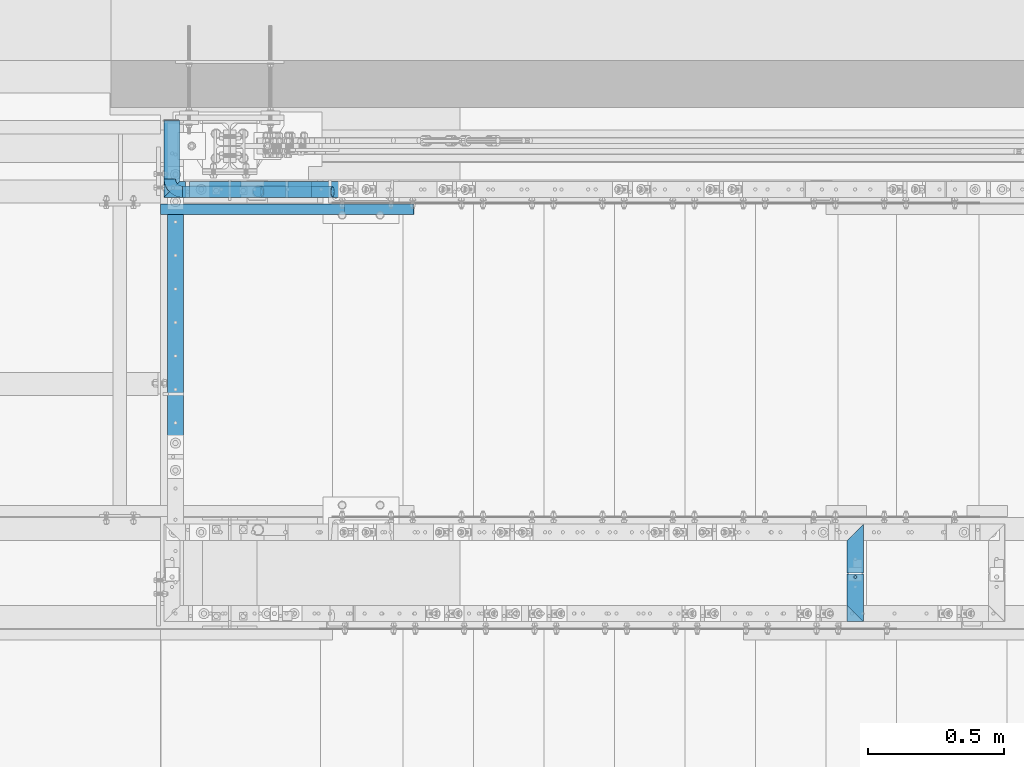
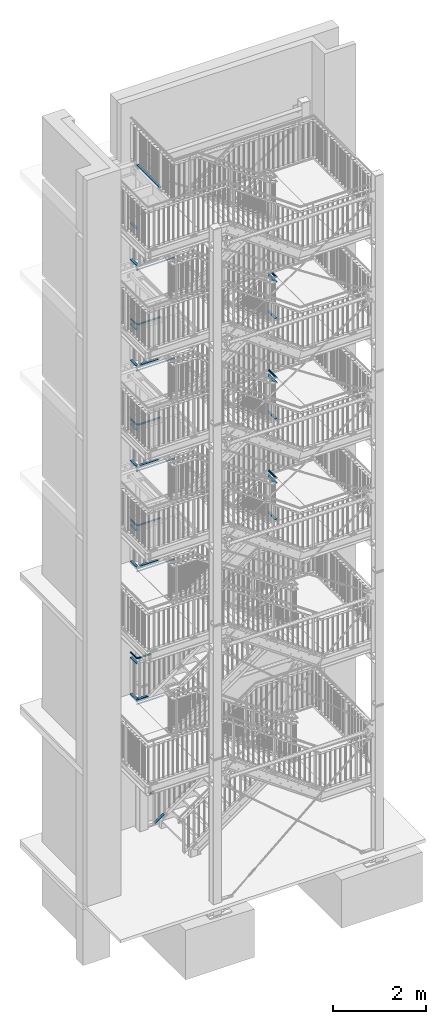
# One storey, part 136 of 825: 51 beams, 1 member, 9 openings.
"""IFC2X3 building model written with IfcOpenShell, lengths in millimetres."""

from ifc_helpers import new_model, entity, si_unit, converted_unit, frame, frame_2d, origin, origin_with_axes, origin_2d, place, context, project, spatial, polyline, rectangle, circle, hollow_circle, l_section, outline, extrude, clip, halfspace, material, element, save


model = new_model("IFC2X3")

# Units and contexts
model_context = context("Model", 3, precision=1e-09, world=origin_with_axes())
ifc_project = project(units=[si_unit("LENGTHUNIT", "METRE", prefix="MILLI"), si_unit("AREAUNIT", "SQUARE_METRE"), si_unit("VOLUMEUNIT", "CUBIC_METRE"), converted_unit("PLANEANGLEUNIT", "DEGREE", entity("IfcPlaneAngleMeasure", 0.01745329), si_unit("PLANEANGLEUNIT", "RADIAN"), dimensions=[0, 0, 0, 0, 0, 0, 0])], contexts=[model_context])

# Site, building, storey
site_placement = place(None, origin_with_axes())
site = spatial("IfcSite", under=ifc_project, at=site_placement, Name="Cnopf'sche Kinderklinik", CompositionType="ELEMENT")
building_placement = place(site_placement, origin_with_axes())
building = spatial("IfcBuilding", under=site, at=building_placement, Name="Struktur 1", CompositionType="ELEMENT")
storey_placement = place(building_placement, origin_with_axes())
storey = spatial("IfcBuildingStorey", under=building, at=storey_placement, Name="Default Storey", CompositionType="ELEMENT", Elevation=0.0)

# Beams
ifc_material = material(Name="S235JR")
beam_1_placement = place(None, frame((4601.713402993, 7292.536971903, 9940.8), z_axis=(-1.0, 0.0, 0.0), x_axis=(0.0, 0.0, -1.0)))
element("IfcBeam", 1, at=beam_1_placement, inside=storey, material=ifc_material, Name="BottomLanding#3", ObjectType="BottomLanding#3", context=model_context, shape_type="SweptSolid", body=[
    extrude(l_section(Depth=40.0, Width=40.0, Thickness=4.0, FilletRadius=6.0, EdgeRadius=3.0, at=frame_2d((8.8, 8.8))), origin(), (0.0, 0.0, -1.0), 934.257526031),
])
beam_2_placement = place(None, frame((4601.713402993, 7292.536971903, 7308.8), z_axis=(-1.0, 0.0, 0.0), x_axis=(0.0, 0.0, -1.0)))
element("IfcBeam", 2, at=beam_2_placement, inside=storey, material=ifc_material, Name="BottomLanding#3", ObjectType="BottomLanding#3", context=model_context, shape_type="SweptSolid", body=[
    extrude(l_section(Depth=40.0, Width=40.0, Thickness=4.0, FilletRadius=6.0, EdgeRadius=3.0, at=frame_2d((8.8, 8.8))), origin(), (0.0, 0.0, -1.0), 933.956009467),
])
beam_3_placement = place(None, frame((4601.713402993, 7292.536971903, 12567.8), z_axis=(-1.0, 0.0, 0.0), x_axis=(0.0, 0.0, -1.0)))
element("IfcBeam", 3, at=beam_3_placement, inside=storey, material=ifc_material, Name="BottomLanding#3", ObjectType="BottomLanding#3", context=model_context, shape_type="SweptSolid", body=[
    extrude(l_section(Depth=40.0, Width=40.0, Thickness=4.0, FilletRadius=6.0, EdgeRadius=3.0, at=frame_2d((8.8, 8.8))), origin(), (0.0, 0.0, -1.0), 933.775808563),
])
beam_4_placement = place(None, frame((4601.713402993, 7292.536971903, 15202.8), z_axis=(-1.0, 0.0, 0.0), x_axis=(0.0, 0.0, -1.0)))
element("IfcBeam", 4, at=beam_4_placement, inside=storey, material=ifc_material, Name="BottomLanding#3", ObjectType="BottomLanding#3", context=model_context, shape_type="SweptSolid", body=[
    extrude(l_section(Depth=40.0, Width=40.0, Thickness=4.0, FilletRadius=6.0, EdgeRadius=3.0, at=frame_2d((8.8, 8.8))), origin(), (0.0, 0.0, -1.0), 934.682146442),
])
beam_5_placement = place(None, frame((4644.213402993, 7611.736971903, 15279.0), z_axis=(0.0, 1.0, 0.0), x_axis=(0.0, 0.0, -1.0)))
element("IfcBeam", 5, at=beam_5_placement, inside=storey, material=ifc_material, Name="Railing_Kneerail_Landing#0", ObjectType="Railing_Kneerail_Landing#0", context=model_context, shape_type="Clipping", body=[
    clip(extrude(rectangle(XDim=10.0, YDim=60.0, at=origin_2d()), origin(), (0.0, 0.0, -1.0), 298.011626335), halfspace(frame((15279.0, 6000.475894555, -6255.474480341), z_axis=(0.0, 0.707106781, 0.707106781), x_axis=(0.0, 0.707106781, -0.707106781)), True)),
])
beam_6_placement = place(None, frame((4644.213402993, 7611.736971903, 16227.8), z_axis=(0.0, 1.0, 0.0), x_axis=(0.0, 0.0, -1.0)))
element("IfcBeam", 6, at=beam_6_placement, inside=storey, material=ifc_material, Name="Railing_Kneerail_Landing#0", ObjectType="Railing_Kneerail_Landing#0", context=model_context, shape_type="Clipping", body=[
    clip(extrude(rectangle(XDim=10.0, YDim=60.0, at=origin_2d()), origin(), (0.0, 0.0, -1.0), 298.011626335), halfspace(frame((16227.8, 6000.475894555, -6255.474480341), z_axis=(0.0, 0.707106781, 0.707106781), x_axis=(0.0, 0.707106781, -0.707106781)), True)),
])
beam_7_placement = place(None, frame((4644.213402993, 7611.736971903, 12644.0), z_axis=(0.0, 1.0, 0.0), x_axis=(0.0, 0.0, -1.0)))
element("IfcBeam", 7, at=beam_7_placement, inside=storey, material=ifc_material, Name="Railing_Kneerail_Landing#0", ObjectType="Railing_Kneerail_Landing#0", context=model_context, shape_type="Clipping", body=[
    clip(extrude(rectangle(XDim=10.0, YDim=60.0, at=origin_2d()), origin(), (0.0, 0.0, -1.0), 298.011626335), halfspace(frame((12644.0, 6000.475894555, -6255.474480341), z_axis=(0.0, 0.707106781, 0.707106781), x_axis=(0.0, 0.707106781, -0.707106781)), True)),
])
beam_8_placement = place(None, frame((4644.213402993, 7611.736971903, 13592.8), z_axis=(0.0, 1.0, 0.0), x_axis=(0.0, 0.0, -1.0)))
element("IfcBeam", 8, at=beam_8_placement, inside=storey, material=ifc_material, Name="Railing_Kneerail_Landing#0", ObjectType="Railing_Kneerail_Landing#0", context=model_context, shape_type="Clipping", body=[
    clip(extrude(rectangle(XDim=10.0, YDim=60.0, at=origin_2d()), origin(), (0.0, 0.0, -1.0), 298.011626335), halfspace(frame((13592.8, 6000.475894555, -6255.474480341), z_axis=(0.0, 0.707106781, 0.707106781), x_axis=(0.0, 0.707106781, -0.707106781)), True)),
])
beam_9_placement = place(None, frame((4635.413402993, 7608.736971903, 13719.0), z_axis=(0.0, 1.0, 0.0), x_axis=(1.0, 0.0, 0.0)))
element("IfcBeam", 9, at=beam_9_placement, inside=storey, material=ifc_material, Name="Railing_Handrail_Landing#0", ObjectType="Railing_Handrail_Landing#0", context=model_context, shape_type="SweptSolid", body=[
    extrude(hollow_circle(Radius=21.2, WallThickness=3.2, at=origin_2d()), origin(), (0.0, 0.0, -1.0), 212.8),
])
beam_10_placement = place(None, frame((4635.413402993, 7395.936971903, 13719.0), z_axis=(0.0, 1.0, 0.0), x_axis=(1.0, 0.0, 0.0)))
element("IfcBeam", 10, at=beam_10_placement, inside=storey, material=ifc_material, Name="Elbow#0", ObjectType="Elbow#0", context=model_context, shape_type="SweptSolid", body=[
    entity("IfcRevolvedAreaSolid", entity("IfcCircleHollowProfileDef", "AREA", None, entity("IfcAxis2Placement2D", entity("IfcCartesianPoint", [0.0, 0.0])), 21.2, 3.2), entity("IfcAxis2Placement3D", entity("IfcCartesianPoint", [0.0, 0.0, 0.0])), entity("IfcAxis1Placement", entity("IfcCartesianPoint", [48.0, 0.0, 0.0]), entity("IfcDirection", [0.0, -1.0, 0.0])), 90.0),
])
beam_11_placement = place(None, frame((4644.213402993, 7611.736971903, 10017.0), z_axis=(0.0, 1.0, 0.0), x_axis=(0.0, 0.0, -1.0)))
element("IfcBeam", 11, at=beam_11_placement, inside=storey, material=ifc_material, Name="Railing_Kneerail_Landing#0", ObjectType="Railing_Kneerail_Landing#0", context=model_context, shape_type="Clipping", body=[
    clip(extrude(rectangle(XDim=10.0, YDim=60.0, at=origin_2d()), origin(), (0.0, 0.0, -1.0), 298.011626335), halfspace(frame((10017.0, 6000.475894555, -6255.474480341), z_axis=(0.0, 0.707106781, 0.707106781), x_axis=(0.0, 0.707106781, -0.707106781)), True)),
])
beam_12_placement = place(None, frame((4644.213402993, 7611.736971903, 10965.8), z_axis=(0.0, 1.0, 0.0), x_axis=(0.0, 0.0, -1.0)))
element("IfcBeam", 12, at=beam_12_placement, inside=storey, material=ifc_material, Name="Railing_Kneerail_Landing#0", ObjectType="Railing_Kneerail_Landing#0", context=model_context, shape_type="Clipping", body=[
    clip(extrude(rectangle(XDim=10.0, YDim=60.0, at=origin_2d()), origin(), (0.0, 0.0, -1.0), 298.011626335), halfspace(frame((10965.8, 6000.475894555, -6255.474480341), z_axis=(0.0, 0.707106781, 0.707106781), x_axis=(0.0, 0.707106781, -0.707106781)), True)),
])
beam_13_placement = place(None, frame((4635.413402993, 7608.736971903, 11092.0), z_axis=(0.0, 1.0, 0.0), x_axis=(1.0, 0.0, 0.0)))
element("IfcBeam", 13, at=beam_13_placement, inside=storey, material=ifc_material, Name="Railing_Handrail_Landing#0", ObjectType="Railing_Handrail_Landing#0", context=model_context, shape_type="SweptSolid", body=[
    extrude(hollow_circle(Radius=21.2, WallThickness=3.2, at=origin_2d()), origin(), (0.0, 0.0, -1.0), 212.8),
])
beam_14_placement = place(None, frame((4635.413402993, 7395.936971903, 11092.0), z_axis=(0.0, 1.0, 0.0), x_axis=(1.0, 0.0, 0.0)))
element("IfcBeam", 14, at=beam_14_placement, inside=storey, material=ifc_material, Name="Elbow#0", ObjectType="Elbow#0", context=model_context, shape_type="SweptSolid", body=[
    entity("IfcRevolvedAreaSolid", entity("IfcCircleHollowProfileDef", "AREA", None, entity("IfcAxis2Placement2D", entity("IfcCartesianPoint", [0.0, 0.0])), 21.2, 3.2), entity("IfcAxis2Placement3D", entity("IfcCartesianPoint", [0.0, 0.0, 0.0])), entity("IfcAxis1Placement", entity("IfcCartesianPoint", [48.0, 0.0, 0.0]), entity("IfcDirection", [0.0, -1.0, 0.0])), 90.0),
])
beam_15_placement = place(None, frame((4644.213402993, 7611.736971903, 7385.0), z_axis=(0.0, 1.0, 0.0), x_axis=(0.0, 0.0, -1.0)))
element("IfcBeam", 15, at=beam_15_placement, inside=storey, material=ifc_material, Name="Railing_Kneerail_Landing#0", ObjectType="Railing_Kneerail_Landing#0", context=model_context, shape_type="Clipping", body=[
    clip(extrude(rectangle(XDim=10.0, YDim=60.0, at=origin_2d()), origin(), (0.0, 0.0, -1.0), 298.011626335), halfspace(frame((7385.0, 6000.475894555, -6255.474480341), z_axis=(0.0, 0.707106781, 0.707106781), x_axis=(0.0, 0.707106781, -0.707106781)), True)),
])
beam_16_placement = place(None, frame((4644.213402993, 7611.736971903, 8333.8), z_axis=(0.0, 1.0, 0.0), x_axis=(0.0, 0.0, -1.0)))
element("IfcBeam", 16, at=beam_16_placement, inside=storey, material=ifc_material, Name="Railing_Kneerail_Landing#0", ObjectType="Railing_Kneerail_Landing#0", context=model_context, shape_type="Clipping", body=[
    clip(extrude(rectangle(XDim=10.0, YDim=60.0, at=origin_2d()), origin(), (0.0, 0.0, -1.0), 298.011626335), halfspace(frame((8333.8, 6000.475894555, -6255.474480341), z_axis=(0.0, 0.707106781, 0.707106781), x_axis=(0.0, 0.707106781, -0.707106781)), True)),
])
beam_17_placement = place(None, frame((4635.413402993, 7608.736971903, 8460.0), z_axis=(0.0, 1.0, 0.0), x_axis=(1.0, 0.0, 0.0)))
element("IfcBeam", 17, at=beam_17_placement, inside=storey, material=ifc_material, Name="Railing_Handrail_Landing#0", ObjectType="Railing_Handrail_Landing#0", context=model_context, shape_type="SweptSolid", body=[
    extrude(hollow_circle(Radius=21.2, WallThickness=3.2, at=origin_2d()), origin(), (0.0, 0.0, -1.0), 212.8),
])
beam_18_placement = place(None, frame((4635.413402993, 7395.936971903, 8460.0), z_axis=(0.0, 1.0, 0.0), x_axis=(1.0, 0.0, 0.0)))
element("IfcBeam", 18, at=beam_18_placement, inside=storey, material=ifc_material, Name="Elbow#0", ObjectType="Elbow#0", context=model_context, shape_type="SweptSolid", body=[
    entity("IfcRevolvedAreaSolid", entity("IfcCircleHollowProfileDef", "AREA", None, entity("IfcAxis2Placement2D", entity("IfcCartesianPoint", [0.0, 0.0])), 21.2, 3.2), entity("IfcAxis2Placement3D", entity("IfcCartesianPoint", [0.0, 0.0, 0.0])), entity("IfcAxis1Placement", entity("IfcCartesianPoint", [48.0, 0.0, 0.0]), entity("IfcDirection", [0.0, -1.0, 0.0])), 90.0),
])
beam_19_placement = place(None, frame((4644.213402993, 7611.736971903, 3912.0), z_axis=(0.0, 1.0, 0.0), x_axis=(0.0, 0.0, -1.0)))
element("IfcBeam", 19, at=beam_19_placement, inside=storey, material=ifc_material, Name="Railing_Kneerail_Landing#0", ObjectType="Railing_Kneerail_Landing#0", context=model_context, shape_type="Clipping", body=[
    clip(extrude(rectangle(XDim=10.0, YDim=60.0, at=origin_2d()), origin(), (0.0, 0.0, -1.0), 298.011626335), halfspace(frame((3912.0, 6000.475894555, -6255.474480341), z_axis=(0.0, 0.707106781, 0.707106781), x_axis=(0.0, 0.707106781, -0.707106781)), True)),
])
beam_20_placement = place(None, frame((4644.213402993, 7611.736971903, 4860.8), z_axis=(0.0, 1.0, 0.0), x_axis=(0.0, 0.0, -1.0)))
element("IfcBeam", 20, at=beam_20_placement, inside=storey, material=ifc_material, Name="Railing_Kneerail_Landing#0", ObjectType="Railing_Kneerail_Landing#0", context=model_context, shape_type="Clipping", body=[
    clip(extrude(rectangle(XDim=10.0, YDim=60.0, at=origin_2d()), origin(), (0.0, 0.0, -1.0), 298.011626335), halfspace(frame((4860.8, 6000.475894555, -6255.474480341), z_axis=(0.0, 0.707106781, 0.707106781), x_axis=(0.0, 0.707106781, -0.707106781)), True)),
])
beam_21_placement = place(None, frame((4635.413402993, 7608.736971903, 4987.0), z_axis=(0.0, 1.0, 0.0), x_axis=(1.0, 0.0, 0.0)))
element("IfcBeam", 21, at=beam_21_placement, inside=storey, material=ifc_material, Name="Railing_Handrail_Landing#0", ObjectType="Railing_Handrail_Landing#0", context=model_context, shape_type="SweptSolid", body=[
    extrude(hollow_circle(Radius=21.2, WallThickness=3.2, at=origin_2d()), origin(), (0.0, 0.0, -1.0), 212.8),
])
beam_22_placement = place(None, frame((4635.413402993, 7395.936971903, 4987.0), z_axis=(0.0, 1.0, 0.0), x_axis=(1.0, 0.0, 0.0)))
element("IfcBeam", 22, at=beam_22_placement, inside=storey, material=ifc_material, Name="Elbow#0", ObjectType="Elbow#0", context=model_context, shape_type="SweptSolid", body=[
    entity("IfcRevolvedAreaSolid", entity("IfcCircleHollowProfileDef", "AREA", None, entity("IfcAxis2Placement2D", entity("IfcCartesianPoint", [0.0, 0.0])), 21.2, 3.2), entity("IfcAxis2Placement3D", entity("IfcCartesianPoint", [0.0, 0.0, 0.0])), entity("IfcAxis1Placement", entity("IfcCartesianPoint", [48.0, 0.0, 0.0]), entity("IfcDirection", [0.0, -1.0, 0.0])), 90.0),
])

# Member, opening
member_placement = place(None, frame((5074.778509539, 7356.736971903, 519.607130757), z_axis=(-0.814635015, 0.0, -0.579973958), x_axis=(0.579973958, 0.0, -0.814635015)))
member = element("IfcMember", 23, at=member_placement, inside=storey, material=ifc_material, Name="Railing_Kneerail_Stair#1", ObjectType="Railing_Kneerail_Stair#1", context=model_context, shape_type="SweptSolid", body=[
    extrude(rectangle(XDim=10.0, YDim=60.0, at=origin_2d()), origin(), (0.0, 0.0, -1.0), 290.356403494),
])
opening_1_placement = place(member_placement, frame((713.438579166, 0.0, 212.227858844), z_axis=(-0.817517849, 0.0, -0.575903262), x_axis=(0.575903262, 0.0, -0.817517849)))
element("IfcOpeningElement", 24, at=opening_1_placement, cuts=member, ObjectType="Opening", context=model_context, shape_type="SweptSolid", body=[
    extrude(outline(polyline([(-1139.998789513, -30.001), (-1139.998789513, 30.001), (-1155.000789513, 30.001), (-1155.000789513, -30.001), (-1139.998789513, -30.001)])), origin(), (0.0, 0.0, 1.0), 128.657025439),
])

# Beams
beam_23_placement = place(None, frame((5061.878639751, 7347.936971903, 1341.2000007), z_axis=(1.0, 0.0, 0.0), x_axis=(0.0, 0.0, 1.0)))
element("IfcBeam", 25, at=beam_23_placement, inside=storey, material=ifc_material, Name="Railing_Handrail_Landing#0", ObjectType="Railing_Handrail_Landing#0", context=model_context, shape_type="Clipping", body=[
    clip(extrude(hollow_circle(Radius=21.2, WallThickness=3.2, at=origin_2d()), origin(), (0.0, 0.0, -1.0), 143.176973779), halfspace(frame((-3151.151540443, 7347.936971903, -3251.927100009), z_axis=(-0.707106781, 0.0, 0.707106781), x_axis=(0.0, -1.0, 0.0)), True)),
])
beam_24_placement = place(None, frame((4683.413402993, 7347.936971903, 4987.0), z_axis=(-1.0, 0.0, 0.0), x_axis=(0.0, 0.0, -1.0)))
element("IfcBeam", 26, at=beam_24_placement, inside=storey, material=ifc_material, Name="Railing_Handrail_Landing#2", ObjectType="Railing_Handrail_Landing#2", context=model_context, shape_type="Clipping", body=[
    clip(extrude(hollow_circle(Radius=21.2, WallThickness=3.2, at=origin_2d()), origin(), (0.0, 0.0, -1.0), 324.745706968), halfspace(frame((3102.216720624, 7347.936971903, -1274.657844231), z_axis=(0.301609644, 0.0, 0.953431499), x_axis=(0.0, 1.0, 0.0)), True)),
])
beam_25_placement = place(None, frame((4601.201776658, 7356.736971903, 3912.0), z_axis=(-1.0, 0.0, 0.0), x_axis=(0.0, 0.0, -1.0)))
element("IfcBeam", 27, at=beam_25_placement, inside=storey, material=ifc_material, Name="Railing_Kneerail_Landing#0", ObjectType="Railing_Kneerail_Landing#0", context=model_context, shape_type="Clipping", body=[
    clip(extrude(rectangle(XDim=10.0, YDim=60.0, at=origin_2d()), origin(), (0.0, 0.0, -1.0), 93.011626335), halfspace(frame((3912.0, 6000.475894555, 5957.462854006), z_axis=(0.0, 0.707106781, -0.707106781), x_axis=(0.0, -0.707106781, -0.707106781)), True)),
])
beam_26_placement = place(None, frame((4709.213402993, 7356.736971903, 3912.0), z_axis=(-1.0, 0.0, 0.0), x_axis=(0.0, 0.0, -1.0)))
element("IfcBeam", 28, at=beam_26_placement, inside=storey, material=ifc_material, Name="Railing_Kneerail_Landing#1", ObjectType="Railing_Kneerail_Landing#1", context=model_context, shape_type="SweptSolid", body=[
    extrude(rectangle(XDim=10.0, YDim=60.0, at=origin_2d()), origin(), (0.0, 0.0, -1.0), 188.460062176),
])
beam_27_placement = place(None, frame((4683.413402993, 7347.936971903, 8460.0), z_axis=(-1.0, 0.0, 0.0), x_axis=(0.0, 0.0, -1.0)))
element("IfcBeam", 29, at=beam_27_placement, inside=storey, material=ifc_material, Name="Railing_Handrail_Landing#2", ObjectType="Railing_Handrail_Landing#2", context=model_context, shape_type="Clipping", body=[
    clip(extrude(hollow_circle(Radius=21.2, WallThickness=3.2, at=origin_2d()), origin(), (0.0, 0.0, -1.0), 584.812622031), halfspace(frame((6123.567620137, 7347.936971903, -2535.278709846), z_axis=(0.307936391, 0.0, 0.951406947), x_axis=(0.0, 1.0, 0.0)), True)),
])
beam_28_placement = place(None, frame((4709.213402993, 7356.736971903, 7385.0), z_axis=(-1.0, 0.0, 0.0), x_axis=(0.0, 0.0, -1.0)))
element("IfcBeam", 30, at=beam_28_placement, inside=storey, material=ifc_material, Name="Railing_Kneerail_Landing#1", ObjectType="Railing_Kneerail_Landing#1", context=model_context, shape_type="SweptSolid", body=[
    extrude(rectangle(XDim=10.0, YDim=60.0, at=origin_2d()), origin(), (0.0, 0.0, -1.0), 449.524355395),
])
beam_29_placement = place(None, frame((4601.713402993, 7292.536971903, 3835.8), z_axis=(-1.0, 0.0, 0.0), x_axis=(0.0, 0.0, -1.0)))
element("IfcBeam", 31, at=beam_29_placement, inside=storey, material=ifc_material, Name="BottomLanding#3", ObjectType="BottomLanding#3", context=model_context, shape_type="SweptSolid", body=[
    extrude(l_section(Depth=40.0, Width=40.0, Thickness=4.0, FilletRadius=6.0, EdgeRadius=3.0, at=frame_2d((8.8, 8.8))), origin(), (0.0, 0.0, -1.0), 678.506103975),
])
beam_30_placement = place(None, frame((4683.413402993, 7347.936971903, 11092.0), z_axis=(-1.0, 0.0, 0.0), x_axis=(0.0, 0.0, -1.0)))
element("IfcBeam", 32, at=beam_30_placement, inside=storey, material=ifc_material, Name="Railing_Handrail_Landing#2", ObjectType="Railing_Handrail_Landing#2", context=model_context, shape_type="Clipping", body=[
    clip(extrude(hollow_circle(Radius=21.2, WallThickness=3.2, at=origin_2d()), origin(), (0.0, 0.0, -1.0), 584.808022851), halfspace(frame((8510.835770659, 7347.936971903, -3303.709290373), z_axis=(0.307506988, 0.0, 0.951545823), x_axis=(0.0, 1.0, 0.0)), True)),
])
beam_31_placement = place(None, frame((4709.213402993, 7356.736971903, 10017.0), z_axis=(-1.0, 0.0, 0.0), x_axis=(0.0, 0.0, -1.0)))
element("IfcBeam", 33, at=beam_31_placement, inside=storey, material=ifc_material, Name="Railing_Kneerail_Landing#1", ObjectType="Railing_Kneerail_Landing#1", context=model_context, shape_type="SweptSolid", body=[
    extrude(rectangle(XDim=10.0, YDim=60.0, at=origin_2d()), origin(), (0.0, 0.0, -1.0), 449.453961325),
])
beam_32_placement = place(None, frame((4683.413402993, 7347.936971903, 13719.0), z_axis=(-1.0, 0.0, 0.0), x_axis=(0.0, 0.0, -1.0)))
element("IfcBeam", 34, at=beam_32_placement, inside=storey, material=ifc_material, Name="Railing_Handrail_Landing#2", ObjectType="Railing_Handrail_Landing#2", context=model_context, shape_type="Clipping", body=[
    clip(extrude(hollow_circle(Radius=21.2, WallThickness=3.2, at=origin_2d()), origin(), (0.0, 0.0, -1.0), 584.815382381), halfspace(frame((10880.560986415, 7347.936971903, -4078.199063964), z_axis=(0.308193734, 0.0, 0.951323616), x_axis=(0.0, 1.0, 0.0)), True)),
])
beam_33_placement = place(None, frame((4709.213402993, 7356.736971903, 12644.0), z_axis=(-1.0, 0.0, 0.0), x_axis=(0.0, 0.0, -1.0)))
element("IfcBeam", 35, at=beam_33_placement, inside=storey, material=ifc_material, Name="Railing_Kneerail_Landing#1", ObjectType="Railing_Kneerail_Landing#1", context=model_context, shape_type="SweptSolid", body=[
    extrude(rectangle(XDim=10.0, YDim=60.0, at=origin_2d()), origin(), (0.0, 0.0, -1.0), 449.566416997),
])

# Beam, openings
beam_34_placement = place(None, frame((4656.713402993, 6370.486721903, 17899.0), z_axis=(0.0, -1.0, 0.0), x_axis=(0.0, 0.0, -1.0)))
beam_34 = element("IfcBeam", 36, at=beam_34_placement, inside=storey, material=ifc_material, Name="Railing_Kneerail_Landing#7", ObjectType="Railing_Kneerail_Landing#7", context=model_context, shape_type="SweptSolid", body=[
    extrude(rectangle(XDim=10.0, YDim=60.0, at=origin_2d()), origin(), (0.0, 0.0, -1.0), 991.25025),
])
opening_2_placement = place(beam_34_placement, frame((60.0, 0.0, -991.25025), z_axis=(-1.0, 0.0, 0.0), x_axis=(0.0, 1.0, 0.0)))
element("IfcOpeningElement", 37, at=opening_2_placement, cuts=beam_34, ObjectType="Opening", context=model_context, shape_type="SweptSolid", body=[
    extrude(outline(polyline([(30.001, -983.74925), (-30.001, -983.74925), (-30.001, -998.75125), (30.001, -998.75125), (30.001, -983.74925)])), origin(), (0.0, 0.0, 1.0), 120.0),
])
opening_3_placement = place(beam_34_placement, frame((60.0, 0.0, -991.25025), z_axis=(-1.0, 0.0, 0.0), x_axis=(0.0, 1.0, 0.0)))
element("IfcOpeningElement", 38, at=opening_3_placement, cuts=beam_34, ObjectType="Opening", context=model_context, shape_type="SweptSolid", body=[
    extrude(outline(polyline([(30.001, 7.501), (-30.001, 7.501), (-30.001, -7.501), (30.001, -7.501), (30.001, 7.501)])), origin(), (0.0, 0.0, 1.0), 120.0),
])

# Beams
beam_35_placement = place(None, frame((7173.622212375, 5938.736971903, 15036.5000001), z_axis=(0.0, 1.0, 0.0), x_axis=(0.0, 0.0, -1.0)))
element("IfcBeam", 39, at=beam_35_placement, inside=storey, material=ifc_material, Name="Railing_Handrail_Landing#5", ObjectType="Railing_Handrail_Landing#5", context=model_context, shape_type="Clipping", body=[
    clip(extrude(hollow_circle(Radius=21.2, WallThickness=3.2, at=origin_2d()), origin(), (0.0, 0.0, -1.0), 198.2), halfspace(frame((15036.5000001, 695.341913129, 539.543327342), z_axis=(0.0, -0.707106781, 0.707106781), x_axis=(0.0, 0.707106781, 0.707106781)), True)),
])
beam_36_placement = place(None, frame((7164.822212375, 6134.748598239, 14910.3000001), z_axis=(0.0, 1.0, 0.0), x_axis=(0.0, 0.0, -1.0)))
element("IfcBeam", 40, at=beam_36_placement, inside=storey, material=ifc_material, Name="Railing_Kneerail_Landing#1006", ObjectType="Railing_Kneerail_Landing#1006", context=model_context, shape_type="Clipping", body=[
    clip(extrude(rectangle(XDim=10.0, YDim=60.0, at=origin_2d()), origin(), (0.0, 0.0, -1.0), 193.011626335), halfspace(frame((14910.3000001, 6628.278885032, -6671.291925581), z_axis=(0.0, -0.707106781, -0.707106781), x_axis=(0.0, -0.707106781, 0.707106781)), True)),
])

# Beam, opening
beam_37_placement = place(None, frame((7164.822212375, 5938.736971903, 14910.3000001), z_axis=(0.0, 1.0, 0.0), x_axis=(0.0, 0.0, -1.0)))
beam_37 = element("IfcBeam", 41, at=beam_37_placement, inside=storey, material=ifc_material, Name="Railing_Kneerail_Landing#1006", ObjectType="Railing_Kneerail_Landing#1006", context=model_context, shape_type="Clipping", body=[
    clip(extrude(rectangle(XDim=10.0, YDim=60.0, at=origin_2d()), origin(), (0.0, 0.0, -1.0), 190.011626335), halfspace(frame((14910.3000001, 686.541913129, 539.543327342), z_axis=(0.0, -0.707106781, 0.707106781), x_axis=(0.0, 0.707106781, 0.707106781)), True)),
])
opening_4_placement = place(beam_37_placement, frame((5.5, 0.0, -6.998999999), z_axis=(1.0, 0.0, 0.0), x_axis=(0.0, 1.0, 0.0)))
element("IfcOpeningElement", 42, at=opening_4_placement, cuts=beam_37, ObjectType="Opening", context=model_context, shape_type="SweptSolid", body=[
    extrude(circle(Radius=5.001, at=frame_2d((0.0, -5.001), x_axis=(1.0, 0.0))), origin(), (0.0, 0.0, -1.0), 11.0),
])

# Beam
beam_38_placement = place(None, frame((7164.822212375, 6134.748598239, 13961.5000001), z_axis=(0.0, 1.0, 0.0), x_axis=(0.0, 0.0, -1.0)))
element("IfcBeam", 43, at=beam_38_placement, inside=storey, material=ifc_material, Name="Railing_Kneerail_Landing#6", ObjectType="Railing_Kneerail_Landing#6", context=model_context, shape_type="Clipping", body=[
    clip(extrude(rectangle(XDim=10.0, YDim=60.0, at=origin_2d()), origin(), (0.0, 0.0, -1.0), 193.011626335), halfspace(frame((13961.5000001, 6628.278885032, -6671.291925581), z_axis=(0.0, -0.707106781, -0.707106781), x_axis=(0.0, -0.707106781, 0.707106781)), True)),
])

# Beam, opening
beam_39_placement = place(None, frame((7164.822212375, 5938.736971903, 13961.5000001), z_axis=(0.0, 1.0, 0.0), x_axis=(0.0, 0.0, -1.0)))
beam_39 = element("IfcBeam", 44, at=beam_39_placement, inside=storey, material=ifc_material, Name="Railing_Kneerail_Landing#6", ObjectType="Railing_Kneerail_Landing#6", context=model_context, shape_type="SweptSolid", body=[
    extrude(rectangle(XDim=10.0, YDim=60.0, at=origin_2d()), origin(), (0.0, 0.0, -1.0), 177.0),
])
opening_5_placement = place(beam_39_placement, frame((5.5, 0.0, -6.998999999), z_axis=(1.0, 0.0, 0.0), x_axis=(0.0, 1.0, 0.0)))
element("IfcOpeningElement", 45, at=opening_5_placement, cuts=beam_39, ObjectType="Opening", context=model_context, shape_type="SweptSolid", body=[
    extrude(circle(Radius=5.001, at=frame_2d((0.0, -5.001), x_axis=(1.0, 0.0))), origin(), (0.0, 0.0, -1.0), 11.0),
])

# Beams
beam_40_placement = place(None, frame((7173.622212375, 6142.936971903, 12405.5000003), z_axis=(0.0, 1.0, 0.0), x_axis=(0.0, 0.0, -1.0)))
element("IfcBeam", 46, at=beam_40_placement, inside=storey, material=ifc_material, Name="Railing_Handrail_Landing#5", ObjectType="Railing_Handrail_Landing#5", context=model_context, shape_type="Clipping", body=[
    clip(extrude(hollow_circle(Radius=21.2, WallThickness=3.2, at=origin_2d()), origin(), (0.0, 0.0, -1.0), 201.2), halfspace(frame((12405.5000003, 6637.078885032, -6679.480299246), z_axis=(0.0, -0.707106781, -0.707106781), x_axis=(0.0, -0.707106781, 0.707106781)), True)),
])
beam_41_placement = place(None, frame((7173.622212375, 5938.736971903, 12405.5000003), z_axis=(0.0, 1.0, 0.0), x_axis=(0.0, 0.0, -1.0)))
element("IfcBeam", 47, at=beam_41_placement, inside=storey, material=ifc_material, Name="Railing_Handrail_Landing#5", ObjectType="Railing_Handrail_Landing#5", context=model_context, shape_type="Clipping", body=[
    clip(extrude(hollow_circle(Radius=21.2, WallThickness=3.2, at=origin_2d()), origin(), (0.0, 0.0, -1.0), 198.2), halfspace(frame((12405.5000003, 695.341913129, 539.543327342), z_axis=(0.0, -0.707106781, 0.707106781), x_axis=(0.0, 0.707106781, 0.707106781)), True)),
])
beam_42_placement = place(None, frame((7164.822212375, 6134.748598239, 12279.3000003), z_axis=(0.0, 1.0, 0.0), x_axis=(0.0, 0.0, -1.0)))
element("IfcBeam", 48, at=beam_42_placement, inside=storey, material=ifc_material, Name="Railing_Kneerail_Landing#1006", ObjectType="Railing_Kneerail_Landing#1006", context=model_context, shape_type="Clipping", body=[
    clip(extrude(rectangle(XDim=10.0, YDim=60.0, at=origin_2d()), origin(), (0.0, 0.0, -1.0), 193.011626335), halfspace(frame((12279.3000003, 6628.278885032, -6671.291925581), z_axis=(0.0, -0.707106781, -0.707106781), x_axis=(0.0, -0.707106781, 0.707106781)), True)),
])

# Beam, opening
beam_43_placement = place(None, frame((7164.822212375, 5938.736971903, 12279.3000003), z_axis=(0.0, 1.0, 0.0), x_axis=(0.0, 0.0, -1.0)))
beam_43 = element("IfcBeam", 49, at=beam_43_placement, inside=storey, material=ifc_material, Name="Railing_Kneerail_Landing#1006", ObjectType="Railing_Kneerail_Landing#1006", context=model_context, shape_type="Clipping", body=[
    clip(extrude(rectangle(XDim=10.0, YDim=60.0, at=origin_2d()), origin(), (0.0, 0.0, -1.0), 190.011626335), halfspace(frame((12279.3000003, 686.541913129, 539.543327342), z_axis=(0.0, -0.707106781, 0.707106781), x_axis=(0.0, 0.707106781, 0.707106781)), True)),
])
opening_6_placement = place(beam_43_placement, frame((5.5, 0.0, -6.998999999), z_axis=(1.0, 0.0, 0.0), x_axis=(0.0, 1.0, 0.0)))
element("IfcOpeningElement", 50, at=opening_6_placement, cuts=beam_43, ObjectType="Opening", context=model_context, shape_type="SweptSolid", body=[
    extrude(circle(Radius=5.001, at=frame_2d((0.0, -5.001), x_axis=(1.0, 0.0))), origin(), (0.0, 0.0, -1.0), 11.0),
])

# Beam
beam_44_placement = place(None, frame((7164.822212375, 6134.748598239, 11330.5000003), z_axis=(0.0, 1.0, 0.0), x_axis=(0.0, 0.0, -1.0)))
element("IfcBeam", 51, at=beam_44_placement, inside=storey, material=ifc_material, Name="Railing_Kneerail_Landing#6", ObjectType="Railing_Kneerail_Landing#6", context=model_context, shape_type="Clipping", body=[
    clip(extrude(rectangle(XDim=10.0, YDim=60.0, at=origin_2d()), origin(), (0.0, 0.0, -1.0), 193.011626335), halfspace(frame((11330.5000003, 6628.278885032, -6671.291925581), z_axis=(0.0, -0.707106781, -0.707106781), x_axis=(0.0, -0.707106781, 0.707106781)), True)),
])

# Beam, opening
beam_45_placement = place(None, frame((7164.822212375, 5938.736971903, 11330.5000003), z_axis=(0.0, 1.0, 0.0), x_axis=(0.0, 0.0, -1.0)))
beam_45 = element("IfcBeam", 52, at=beam_45_placement, inside=storey, material=ifc_material, Name="Railing_Kneerail_Landing#6", ObjectType="Railing_Kneerail_Landing#6", context=model_context, shape_type="SweptSolid", body=[
    extrude(rectangle(XDim=10.0, YDim=60.0, at=origin_2d()), origin(), (0.0, 0.0, -1.0), 177.0),
])
opening_7_placement = place(beam_45_placement, frame((5.5, 0.0, -6.998999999), z_axis=(1.0, 0.0, 0.0), x_axis=(0.0, 1.0, 0.0)))
element("IfcOpeningElement", 53, at=opening_7_placement, cuts=beam_45, ObjectType="Opening", context=model_context, shape_type="SweptSolid", body=[
    extrude(circle(Radius=5.001, at=frame_2d((0.0, -5.001), x_axis=(1.0, 0.0))), origin(), (0.0, 0.0, -1.0), 11.0),
])

# Beams
beam_46_placement = place(None, frame((7173.622212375, 6142.936971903, 9776.0), z_axis=(0.0, 1.0, 0.0), x_axis=(0.0, 0.0, -1.0)))
element("IfcBeam", 54, at=beam_46_placement, inside=storey, material=ifc_material, Name="Railing_Handrail_Landing#5", ObjectType="Railing_Handrail_Landing#5", context=model_context, shape_type="Clipping", body=[
    clip(extrude(hollow_circle(Radius=21.2, WallThickness=3.2, at=origin_2d()), origin(), (0.0, 0.0, -1.0), 201.2), halfspace(frame((9776.0, 6637.078885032, -6679.480299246), z_axis=(0.0, -0.707106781, -0.707106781), x_axis=(0.0, -0.707106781, 0.707106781)), True)),
])
beam_47_placement = place(None, frame((7173.622212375, 5938.736971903, 9776.0), z_axis=(0.0, 1.0, 0.0), x_axis=(0.0, 0.0, -1.0)))
element("IfcBeam", 55, at=beam_47_placement, inside=storey, material=ifc_material, Name="Railing_Handrail_Landing#5", ObjectType="Railing_Handrail_Landing#5", context=model_context, shape_type="Clipping", body=[
    clip(extrude(hollow_circle(Radius=21.2, WallThickness=3.2, at=origin_2d()), origin(), (0.0, 0.0, -1.0), 198.2), halfspace(frame((9776.0, 695.341913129, 539.543327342), z_axis=(0.0, -0.707106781, 0.707106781), x_axis=(0.0, 0.707106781, 0.707106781)), True)),
])
beam_48_placement = place(None, frame((7164.822212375, 6134.748598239, 9649.8), z_axis=(0.0, 1.0, 0.0), x_axis=(0.0, 0.0, -1.0)))
element("IfcBeam", 56, at=beam_48_placement, inside=storey, material=ifc_material, Name="Railing_Kneerail_Landing#1006", ObjectType="Railing_Kneerail_Landing#1006", context=model_context, shape_type="Clipping", body=[
    clip(extrude(rectangle(XDim=10.0, YDim=60.0, at=origin_2d()), origin(), (0.0, 0.0, -1.0), 193.011626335), halfspace(frame((9649.8, 6628.278885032, -6671.291925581), z_axis=(0.0, -0.707106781, -0.707106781), x_axis=(0.0, -0.707106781, 0.707106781)), True)),
])

# Beam, opening
beam_49_placement = place(None, frame((7164.822212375, 5938.736971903, 9649.8), z_axis=(0.0, 1.0, 0.0), x_axis=(0.0, 0.0, -1.0)))
beam_49 = element("IfcBeam", 57, at=beam_49_placement, inside=storey, material=ifc_material, Name="Railing_Kneerail_Landing#1006", ObjectType="Railing_Kneerail_Landing#1006", context=model_context, shape_type="Clipping", body=[
    clip(extrude(rectangle(XDim=10.0, YDim=60.0, at=origin_2d()), origin(), (0.0, 0.0, -1.0), 190.011626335), halfspace(frame((9649.8, 686.541913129, 539.543327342), z_axis=(0.0, -0.707106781, 0.707106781), x_axis=(0.0, 0.707106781, 0.707106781)), True)),
])
opening_8_placement = place(beam_49_placement, frame((5.5, 0.0, -6.998999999), z_axis=(1.0, 0.0, 0.0), x_axis=(0.0, 1.0, 0.0)))
element("IfcOpeningElement", 58, at=opening_8_placement, cuts=beam_49, ObjectType="Opening", context=model_context, shape_type="SweptSolid", body=[
    extrude(circle(Radius=5.001, at=frame_2d((0.0, -5.001), x_axis=(1.0, 0.0))), origin(), (0.0, 0.0, -1.0), 11.0),
])

# Beam
beam_50_placement = place(None, frame((7164.822212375, 6134.748598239, 8701.0), z_axis=(0.0, 1.0, 0.0), x_axis=(0.0, 0.0, -1.0)))
element("IfcBeam", 59, at=beam_50_placement, inside=storey, material=ifc_material, Name="Railing_Kneerail_Landing#6", ObjectType="Railing_Kneerail_Landing#6", context=model_context, shape_type="Clipping", body=[
    clip(extrude(rectangle(XDim=10.0, YDim=60.0, at=origin_2d()), origin(), (0.0, 0.0, -1.0), 193.011626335), halfspace(frame((8701.0, 6628.278885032, -6671.291925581), z_axis=(0.0, -0.707106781, -0.707106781), x_axis=(0.0, -0.707106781, 0.707106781)), True)),
])

# Beam, opening
beam_51_placement = place(None, frame((7164.822212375, 5938.736971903, 8701.0), z_axis=(0.0, 1.0, 0.0), x_axis=(0.0, 0.0, -1.0)))
beam_51 = element("IfcBeam", 60, at=beam_51_placement, inside=storey, material=ifc_material, Name="Railing_Kneerail_Landing#6", ObjectType="Railing_Kneerail_Landing#6", context=model_context, shape_type="SweptSolid", body=[
    extrude(rectangle(XDim=10.0, YDim=60.0, at=origin_2d()), origin(), (0.0, 0.0, -1.0), 177.0),
])
opening_9_placement = place(beam_51_placement, frame((5.5, 0.0, -6.998999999), z_axis=(1.0, 0.0, 0.0), x_axis=(0.0, 1.0, 0.0)))
element("IfcOpeningElement", 61, at=opening_9_placement, cuts=beam_51, ObjectType="Opening", context=model_context, shape_type="SweptSolid", body=[
    extrude(circle(Radius=5.001, at=frame_2d((0.0, -5.001), x_axis=(1.0, 0.0))), origin(), (0.0, 0.0, -1.0), 11.0),
])

save(model, "model.ifc")
